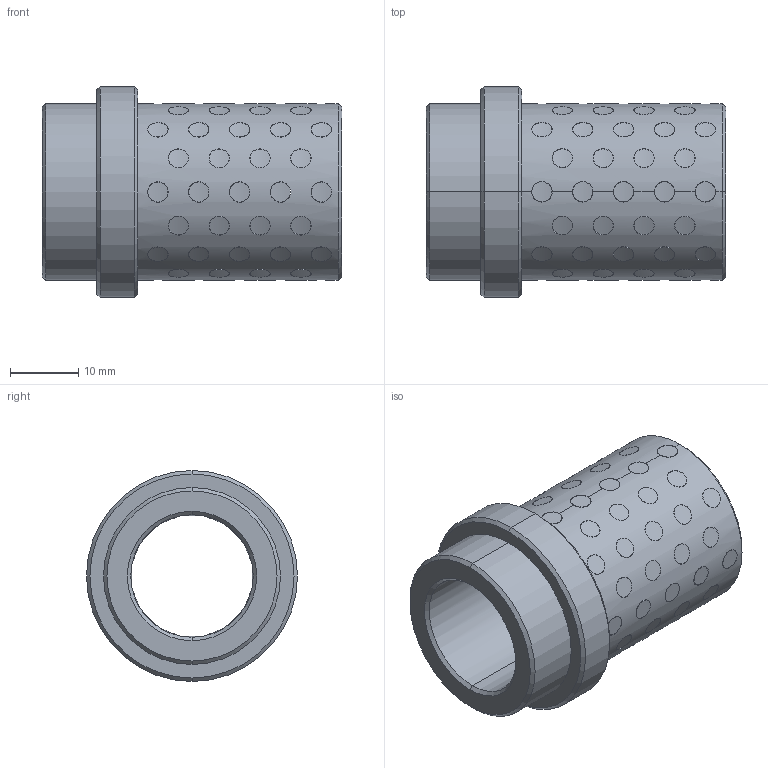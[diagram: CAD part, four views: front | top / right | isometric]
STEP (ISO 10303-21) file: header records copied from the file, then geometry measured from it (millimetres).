
FILE_DESCRIPTION((''),'2;1');
FILE_NAME('G31218036','2017-12-30T',('MANU'),(''),'PRO/ENGINEER BY PARAMETRIC TECHNOLOGY CORPORATION, 2012130','PRO/ENGINEER BY PARAMETRIC TECHNOLOGY CORPORATION, 2012130','');
FILE_SCHEMA(('CONFIG_CONTROL_DESIGN'));
Length unit declared in the file: millimetre
Products named in the file (1): G31218036
Bounding box: 44 x 31 x 31 mm (x, y, z)
Volume: 13381 mm3; surface area: 12413.7 mm2
Topology: 73 solids, 73 shells, 456 faces, 972 edges, 644 vertices
Faces by surface type: cylinder 440, cone 12, plane 4
Entity records: 20610 total; most frequent: CARTESIAN_POINT 11700, ORIENTED_EDGE 1944, DIRECTION 1296, EDGE_CURVE 972, VERTEX_POINT 644, B_SPLINE_CURVE_WITH_KNOTS 616, EDGE_LOOP 584, AXIS2_PLACEMENT_3D 484
